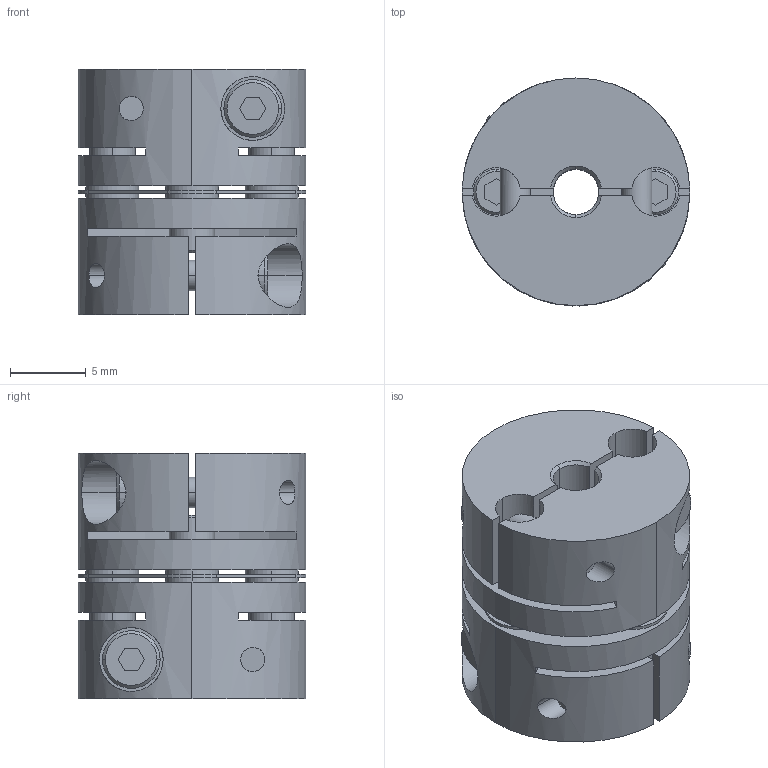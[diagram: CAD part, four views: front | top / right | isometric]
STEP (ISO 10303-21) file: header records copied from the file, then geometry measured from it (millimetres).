
FILE_DESCRIPTION((''),'2;1');
FILE_NAME('LAS-15C-3×3.stp','2011-08-09T14:12:14',(''),(''),'AutoCAD STEP 2000i','AutoCAD 2000i',', , ');
FILE_SCHEMA(('CONFIG_CONTROL_DESIGN'));
Length unit declared in the file: millimetre
Products named in the file (5): LAS-15C-3×3; 忣兜1; LA-1502-D03-1; LA-1502-D03; LAS15-ITA
Assembly tree (4 placements, depth 2):
  LAS-15C-3×3
    忣兜1
    LA-1502-D03-1
    LA-1502-D03
    LAS15-ITA
Bounding box: 15 x 15 x 16.2 mm (x, y, z)
Volume: 2291.4 mm3; surface area: 2718.1 mm2
Topology: 1 solids, 1 shells, 236 faces, 624 edges, 408 vertices
Faces by surface type: plane 112, cylinder 96, cone 28
Entity records: 8155 total; most frequent: CARTESIAN_POINT 1961, DIRECTION 1302, ORIENTED_EDGE 1248, EDGE_CURVE 624, AXIS2_PLACEMENT_3D 477, VERTEX_POINT 408, VECTOR 348, LINE 348
